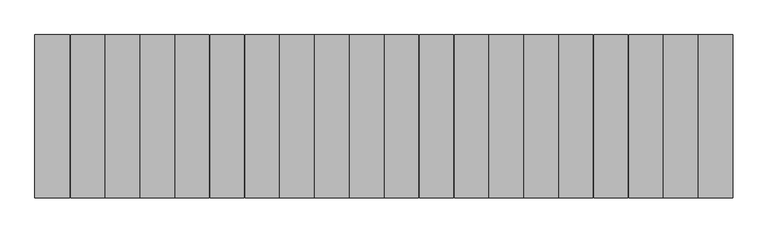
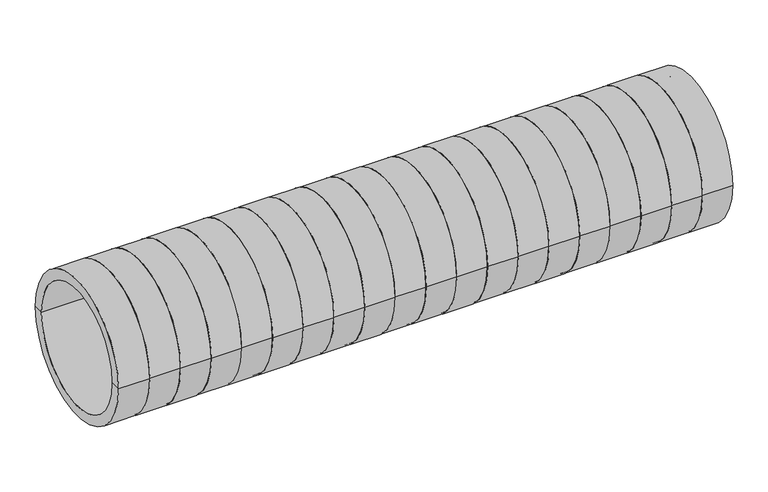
"""IFC4 building model written with IfcOpenShell, lengths in millimetres: duct fitting geometry, HEATPEX - ARIA ADURO - Rura 1m : HEATPEX - ARIA ADURO - Rura 1m."""

import ifcopenshell
import ifcopenshell.guid

model = None  # the IFC model being written
_history = None  # IfcOwnerHistory: only IFC2X3 demands one
_inside = {}  # id of a spatial element -> (the spatial element, [elements in it])
_under = {}  # id of a project, library or spatial element -> (it, [spatial elements below it])
_declared = {}  # id of a project -> (the project, [libraries it declares])
_typed = {}  # id of a type object -> (the type object, [elements of that type])
_made_of = {}  # id of a material, layer set ... -> (it, [elements and type objects made of it])


def new_model(schema):
    """Start an empty IFC model of exactly this schema.

    Asked for "IFC4X3", IfcOpenShell would pick the latest addendum, in which some entities
    have other attributes; the version numbers below select the first issue.
    IFC2X3 requires an IfcOwnerHistory on every rooted entity: one is made here for all.
    """
    global model, _history
    if schema == "IFC4X3":
        model = ifcopenshell.file(schema_version=(4, 3, 0, 0))
    else:
        model = ifcopenshell.file(schema=schema)
    _inside.clear()
    _under.clear()
    _declared.clear()
    _typed.clear()
    _made_of.clear()
    _history = None
    if model.schema == "IFC2X3":
        org = make("IfcOrganization", Name="unknown")
        user = make(
            "IfcPersonAndOrganization",
            ThePerson=make("IfcPerson", FamilyName="unknown"),
            TheOrganization=org,
        )
        app = make(
            "IfcApplication",
            ApplicationDeveloper=org,
            Version="unknown",
            ApplicationFullName="unknown",
            ApplicationIdentifier="unknown",
        )
        _history = make(
            "IfcOwnerHistory",
            OwningUser=user,
            OwningApplication=app,
            ChangeAction="ADDED",
            CreationDate=0,
        )
    return model


def make(cls, **values):
    """One entity of the class cls with the attributes given. An attribute that is None is left unset."""
    return model.create_entity(
        cls, **{name: value for name, value in values.items() if value is not None}
    )


def rooted(cls, **values):
    """An entity with a GlobalId (a new one), such as an element, a storey or a relation."""
    return make(cls, GlobalId=ifcopenshell.guid.new(), OwnerHistory=_history, **values)


def si_unit(unit_type, name, prefix=None):
    """IfcSIUnit, for example si_unit("LENGTHUNIT", "METRE", prefix="MILLI")."""
    return make("IfcSIUnit", UnitType=unit_type, Prefix=prefix, Name=name)


def assignment(units):
    """IfcUnitAssignment: the units of a project."""
    return None if units is None else make("IfcUnitAssignment", Units=units)


def point(xyz):
    """IfcCartesianPoint."""
    return None if xyz is None else make("IfcCartesianPoint", Coordinates=xyz)


def direction(xyz):
    """IfcDirection."""
    return None if xyz is None else make("IfcDirection", DirectionRatios=xyz)


def frame(location, z_axis=None, x_axis=None):
    """IfcAxis2Placement3D, a coordinate frame: its origin and axes. An axis left out is left unset."""
    return make(
        "IfcAxis2Placement3D",
        Location=point(location),
        Axis=direction(z_axis),
        RefDirection=direction(x_axis),
    )


def origin():
    """The frame at (0, 0, 0) with its axes left unset."""
    return frame((0.0, 0.0, 0.0))


def place(relative_to, where):
    """IfcLocalPlacement: puts the frame where relative to a parent placement (None: the world)."""
    return make(
        "IfcLocalPlacement", PlacementRelTo=relative_to, RelativePlacement=where
    )


def context(
    kind, dimensions, precision=None, world=None, true_north=None, identifier=None
):
    """IfcGeometricRepresentationContext, for example the 3D "Model" context."""
    return make(
        "IfcGeometricRepresentationContext",
        ContextIdentifier=identifier,
        ContextType=kind,
        CoordinateSpaceDimension=dimensions,
        Precision=precision,
        WorldCoordinateSystem=world,
        TrueNorth=true_north,
    )


def project(units=None, contexts=None):
    """IfcProject with its units and contexts."""
    return rooted(
        "IfcProject",
        Name="project",
        RepresentationContexts=contexts,
        UnitsInContext=assignment(units),
    )


def spatial(cls, under=None, at=None, **own):
    """A site, building, storey or space (cls), placed at a placement, below another one or the project."""
    s = rooted(cls, ObjectPlacement=at, **own)
    if under is not None:
        _under.setdefault(under.id(), (under, []))[1].append(s)
    return s


def polyline(points):
    """IfcPolyline through the points."""
    return make("IfcPolyline", Points=[point(p) for p in points])


def circle_curve(where, radius):
    """IfcCircle in the frame where."""
    return make("IfcCircle", Position=where, Radius=radius)


def shape(context_of_items, identifier, shape_type, items):
    """IfcShapeRepresentation: the items that make up one representation, for example the "Body"."""
    return make(
        "IfcShapeRepresentation",
        ContextOfItems=context_of_items,
        RepresentationIdentifier=identifier,
        RepresentationType=shape_type,
        Items=items,
    )


def source(mapping_origin, context_of_items, identifier, shape_type, items):
    """IfcRepresentationMap: a shape defined once, which mapped items show again and again."""
    return make(
        "IfcRepresentationMap",
        MappingOrigin=mapping_origin,
        MappedRepresentation=shape(context_of_items, identifier, shape_type, items),
    )


def transform(
    local_origin,
    x_axis=None,
    y_axis=None,
    z_axis=None,
    scale=None,
    scale2=None,
    scale3=None,
    uniform=True,
):
    """IfcCartesianTransformationOperator3D, or its non-uniform kind. x_axis, y_axis, z_axis: its Axis1, 2, 3."""
    if uniform:
        return make(
            "IfcCartesianTransformationOperator3D",
            Axis1=direction(x_axis),
            Axis2=direction(y_axis),
            LocalOrigin=point(local_origin),
            Scale=scale,
            Axis3=direction(z_axis),
        )
    return make(
        "IfcCartesianTransformationOperator3DnonUniform",
        Axis1=direction(x_axis),
        Axis2=direction(y_axis),
        LocalOrigin=point(local_origin),
        Scale=scale,
        Axis3=direction(z_axis),
        Scale2=scale2,
        Scale3=scale3,
    )


def mapped(mapping_source, mapping_target):
    """IfcMappedItem: shows the shape of a source again, moved by a transform."""
    return make(
        "IfcMappedItem", MappingSource=mapping_source, MappingTarget=mapping_target
    )


def made_of(thing, what):
    """Note that an element or type object is made of a material, layer set ...; save() writes the relation."""
    if what is not None:
        _made_of.setdefault(what.id(), (what, []))[1].append(thing)
    return thing


def element(
    cls,
    number,
    at=None,
    inside=None,
    cuts=None,
    type_object=None,
    material=None,
    context=None,
    identifier="Body",
    shape_type=None,
    held_by="IfcProductDefinitionShape",
    body=None,
    shapes=None,
    **own,
):
    """One element of the class cls, such as IfcWall. Its Tag is "e" and its number.

    at: its placement. inside: the storey or other place that contains it. cuts: it is an
    opening in that element (IfcRelVoidsElement). A single representation is given by context,
    identifier, shape_type and body (its items); several are given by shapes. held_by: the class
    of the entity that holds the representations. save() writes the other relations.
    """
    e = rooted(cls, Tag="e%d" % number, ObjectPlacement=at, **own)
    if body is not None:
        shapes = [shape(context, identifier, shape_type, body)]
    if shapes is not None:
        e.Representation = make(held_by, Representations=shapes)
    if inside is not None:
        _inside.setdefault(inside.id(), (inside, []))[1].append(e)
    if cuts is not None:
        rooted(
            "IfcRelVoidsElement", RelatingBuildingElement=cuts, RelatedOpeningElement=e
        )
    if type_object is not None:
        _typed.setdefault(type_object.id(), (type_object, []))[1].append(e)
    return made_of(e, material)


def aggregate(whole, parts):
    """IfcRelAggregates: a whole, such as a stair, and the parts it consists of."""
    return rooted("IfcRelAggregates", RelatingObject=whole, RelatedObjects=parts)


def save(model, path):
    """Write the relations noted so far, then the file.

    IfcRelAggregates (storeys below a building ...), IfcRelContainedInSpatialStructure (elements
    in a storey), IfcRelDefinesByType, IfcRelAssociatesMaterial and IfcRelDeclares: one each for
    every whole, place, type object, material and project.
    """
    for whole, parts in _under.values():
        aggregate(whole, parts)
    for where, things in _inside.values():
        rooted(
            "IfcRelContainedInSpatialStructure",
            RelatedElements=things,
            RelatingStructure=where,
        )
    for kind, things in _typed.values():
        rooted("IfcRelDefinesByType", RelatedObjects=things, RelatingType=kind)
    for what, things in _made_of.values():
        rooted("IfcRelAssociatesMaterial", RelatedObjects=things, RelatingMaterial=what)
    for by, libraries in _declared.values():
        rooted("IfcRelDeclares", RelatingContext=by, RelatedDefinitions=libraries)
    model.write(path)


def plane_surface(at):
    """IfcPlane: the flat surface through the origin of the frame at, square to its z axis."""
    return make("IfcPlane", Position=at)


def cylinder_surface(at, radius):
    """IfcCylindricalSurface: all points at the distance radius from the z axis of the frame at."""
    return make("IfcCylindricalSurface", Position=at, Radius=radius)


def revolved_surface(curve, axis_point, axis_direction):
    """IfcSurfaceOfRevolution: the curve turned about the line through axis_point along axis_direction."""
    return make(
        "IfcSurfaceOfRevolution",
        SweptCurve=make("IfcArbitraryOpenProfileDef", ProfileType="CURVE", Curve=curve),
        AxisPosition=make("IfcAxis1Placement", Location=point(axis_point), Axis=direction(axis_direction)),
    )


def advanced_brep(points, edges, surfaces, faces):
    """IfcAdvancedBrep: a solid bounded by faces that lie on surfaces and meet in shared edges.

    An edge is (start, end): straight between two places in points (the first is 0);
    or (start, end, curve); or (start, end, curve, False) where it runs against its curve.
    A face is (place in surfaces, loops), or (place, loops, False) where it looks against
    its surface's normal. A loop lists edges by number (the first is 1), with a minus sign
    where the edge is run from its end to its start. The first loop is the outer one.
    """
    corners = [point(p) for p in points]
    vertices = [make("IfcVertexPoint", VertexGeometry=c) for c in corners]
    made = []
    for start, end, *more in edges:
        made.append(
            make(
                "IfcEdgeCurve",
                EdgeStart=vertices[start],
                EdgeEnd=vertices[end],
                EdgeGeometry=more[0] if more else make("IfcPolyline", Points=[corners[start], corners[end]]),
                SameSense=more[1] if len(more) > 1 else True,
            )
        )
    hull = []
    for where, loops, *sense in faces:
        bounds = []
        for j, loop in enumerate(loops):
            ring = [make("IfcOrientedEdge", EdgeElement=made[abs(k) - 1], Orientation=k > 0) for k in loop]
            bounds.append(
                make(
                    "IfcFaceOuterBound" if j == 0 else "IfcFaceBound",
                    Bound=make("IfcEdgeLoop", EdgeList=ring),
                    Orientation=True,
                )
            )
        hull.append(make("IfcAdvancedFace", Bounds=bounds, FaceSurface=surfaces[where], SameSense=sense[0] if sense else True))
    return make("IfcAdvancedBrep", Outer=make("IfcClosedShell", CfsFaces=hull))


def duct_fitting_b6d4955a(model_context):
    return source(origin(), model_context, "Body", "AdvancedBrep", [
        advanced_brep(
        [(1000.0, -117.0, 0.0), (1000.0, 117.0, 0.0), (1000.0, 100.0, 0.0), (1000.0, -100.0, 0.0), (0.0, -117.0, 0.0), (0.0, 117.0, 0.0), (50.0, 117.0, 0.0), (50.0, -117.0, 0.0), (0.0, -100.0, 0.0), (0.0, 100.0, 0.0), (951.0, -117.0, 0.0), (951.0, 117.0, 0.0), (951.0, -116.0, 0.0), (951.0, 116.0, 0.0), (950.0, -116.0, 0.0), (950.0, 116.0, 0.0), (950.0, -117.0, 0.0), (950.0, 117.0, 0.0), (901.0, -117.0, 0.0), (901.0, 117.0, 0.0), (901.0, -116.0, 0.0), (901.0, 116.0, 0.0), (900.0, -116.0, 0.0), (900.0, 116.0, 0.0), (900.0, -117.0, 0.0), (900.0, 117.0, 0.0), (851.0, -117.0, 0.0), (851.0, 117.0, 0.0), (851.0, -116.0, 0.0), (851.0, 116.0, 0.0), (850.0, -116.0, 0.0), (850.0, 116.0, 0.0), (850.0, -117.0, 0.0), (850.0, 117.0, 0.0), (801.0, -117.0, 0.0), (801.0, 117.0, 0.0), (801.0, -116.0, 0.0), (801.0, 116.0, 0.0), (800.0, -116.0, 0.0), (800.0, 116.0, 0.0), (800.0, -117.0, 0.0), (800.0, 117.0, 0.0), (751.0, -117.0, 0.0), (751.0, 117.0, 0.0), (751.0, -116.0, 0.0), (751.0, 116.0, 0.0), (750.0, -116.0, 0.0), (750.0, 116.0, 0.0), (750.0, -117.0, 0.0), (750.0, 117.0, 0.0), (701.0, -117.0, 0.0), (701.0, 117.0, 0.0), (701.0, -116.0, 0.0), (701.0, 116.0, 0.0), (700.0, -116.0, 0.0), (700.0, 116.0, 0.0), (700.0, -117.0, 0.0), (700.0, 117.0, 0.0), (651.0, -117.0, 0.0), (651.0, 117.0, 0.0), (651.0, -116.0, 0.0), (651.0, 116.0, 0.0), (650.0, -116.0, 0.0), (650.0, 116.0, 0.0), (650.0, -117.0, 0.0), (650.0, 117.0, 0.0), (601.0, -117.0, 0.0), (601.0, 117.0, 0.0), (601.0, -116.0, 0.0), (601.0, 116.0, 0.0), (600.0, -116.0, 0.0), (600.0, 116.0, 0.0), (600.0, -117.0, 0.0), (600.0, 117.0, 0.0), (551.0, -117.0, 0.0), (551.0, 117.0, 0.0), (551.0, -116.0, 0.0), (551.0, 116.0, 0.0), (550.0, -116.0, 0.0), (550.0, 116.0, 0.0), (550.0, -117.0, 0.0), (550.0, 117.0, 0.0), (501.0, -117.0, 0.0), (501.0, 117.0, 0.0), (501.0, -116.0, 0.0), (501.0, 116.0, 0.0), (500.0, -116.0, 0.0), (500.0, 116.0, 0.0), (500.0, -117.0, 0.0), (500.0, 117.0, 0.0), (451.0, -117.0, 0.0), (451.0, 117.0, 0.0), (451.0, -116.0, 0.0), (451.0, 116.0, 0.0), (450.0, -116.0, 0.0), (450.0, 116.0, 0.0), (450.0, -117.0, 0.0), (450.0, 117.0, 0.0), (401.0, -117.0, 0.0), (401.0, 117.0, 0.0), (401.0, -116.0, 0.0), (401.0, 116.0, 0.0), (400.0, -116.0, 0.0), (400.0, 116.0, 0.0), (400.0, -117.0, 0.0), (400.0, 117.0, 0.0), (351.0, -117.0, 0.0), (351.0, 117.0, 0.0), (351.0, -116.0, 0.0), (351.0, 116.0, 0.0), (350.0, -116.0, 0.0), (350.0, 116.0, 0.0), (350.0, -117.0, 0.0), (350.0, 117.0, 0.0), (301.0, -117.0, 0.0), (301.0, 117.0, 0.0), (301.0, -116.0, 0.0), (301.0, 116.0, 0.0), (300.0, -116.0, 0.0), (300.0, 116.0, 0.0), (300.0, -117.0, 0.0), (300.0, 117.0, 0.0), (251.0, -117.0, 0.0), (251.0, 117.0, 0.0), (251.0, -116.0, 0.0), (251.0, 116.0, 0.0), (250.0, -116.0, 0.0), (250.0, 116.0, 0.0), (250.0, -117.0, 0.0), (250.0, 117.0, 0.0), (201.0, -117.0, 0.0), (201.0, 117.0, 0.0), (201.0, -116.0, 0.0), (201.0, 116.0, 0.0), (200.0, -116.0, 0.0), (200.0, 116.0, 0.0), (200.0, -117.0, 0.0), (200.0, 117.0, 0.0), (151.0, -117.0, 0.0), (151.0, 117.0, 0.0), (151.0, -116.0, 0.0), (151.0, 116.0, 0.0), (150.0, -116.0, 0.0), (150.0, 116.0, 0.0), (150.0, -117.0, 0.0), (150.0, 117.0, 0.0), (101.0, -117.0, 0.0), (101.0, 117.0, 0.0), (101.0, -116.0, 0.0), (101.0, 116.0, 0.0), (100.0, -116.0, 0.0), (100.0, 116.0, 0.0), (100.0, -117.0, 0.0), (100.0, 117.0, 0.0), (51.0, -117.0, 0.0), (51.0, 117.0, 0.0), (51.0, -116.0, 0.0), (51.0, 116.0, 0.0), (50.0, -116.0, 0.0), (50.0, 116.0, 0.0)],
        [
            (0, 1, circle_curve(frame((1000.0, 0.0, 0.0), z_axis=(1.0, 0.0, 0.0), x_axis=(0.0, 1.0, 0.0)), 117.0)),
            (1, 2),
            (2, 3, circle_curve(frame((1000.0, 0.0, 0.0), z_axis=(-1.0, 0.0, 0.0), x_axis=(0.0, 1.0, 0.0)), 100.0)),
            (3, 0),
            (1, 0, circle_curve(frame((1000.0, 0.0, 0.0), z_axis=(1.0, 0.0, 0.0), x_axis=(0.0, 1.0, 0.0)), 117.0)),
            (3, 2, circle_curve(frame((1000.0, 0.0, 0.0), z_axis=(-1.0, 0.0, 0.0), x_axis=(0.0, 1.0, 0.0)), 100.0)),
            (4, 5, circle_curve(frame((0.0, 0.0, 0.0), z_axis=(1.0, 0.0, 0.0), x_axis=(0.0, 1.0, 0.0)), 117.0)),
            (5, 6),
            (6, 7, circle_curve(frame((50.0, 0.0, 0.0), z_axis=(-1.0, 0.0, 0.0), x_axis=(0.0, 1.0, 0.0)), 117.0)),
            (7, 4),
            (5, 4, circle_curve(frame((0.0, 0.0, 0.0), z_axis=(1.0, 0.0, 0.0), x_axis=(0.0, 1.0, 0.0)), 117.0)),
            (7, 6, circle_curve(frame((50.0, 0.0, 0.0), z_axis=(-1.0, 0.0, 0.0), x_axis=(0.0, 1.0, 0.0)), 117.0)),
            (8, 9, circle_curve(frame((0.0, 0.0, 0.0), z_axis=(1.0, 0.0, 0.0), x_axis=(0.0, 1.0, 0.0)), 100.0)),
            (9, 5),
            (4, 8),
            (9, 8, circle_curve(frame((0.0, 0.0, 0.0), z_axis=(1.0, 0.0, 0.0), x_axis=(0.0, 1.0, 0.0)), 100.0)),
            (2, 9),
            (8, 3),
            (10, 11, circle_curve(frame((951.0, 0.0, 0.0), z_axis=(1.0, 0.0, 0.0), x_axis=(0.0, 1.0, 0.0)), 117.0)),
            (11, 1),
            (0, 10),
            (11, 10, circle_curve(frame((951.0, 0.0, 0.0), z_axis=(1.0, 0.0, 0.0), x_axis=(0.0, 1.0, 0.0)), 117.0)),
            (12, 13, circle_curve(frame((951.0, 0.0, 0.0), z_axis=(1.0, 0.0, 0.0), x_axis=(0.0, 1.0, 0.0)), 116.0)),
            (13, 11),
            (10, 12),
            (13, 12, circle_curve(frame((951.0, 0.0, 0.0), z_axis=(1.0, 0.0, 0.0), x_axis=(0.0, 1.0, 0.0)), 116.0)),
            (14, 15, circle_curve(frame((950.0, 0.0, 0.0), z_axis=(1.0, 0.0, 0.0), x_axis=(0.0, 1.0, 0.0)), 116.0)),
            (15, 13),
            (12, 14),
            (15, 14, circle_curve(frame((950.0, 0.0, 0.0), z_axis=(1.0, 0.0, 0.0), x_axis=(0.0, 1.0, 0.0)), 116.0)),
            (16, 17, circle_curve(frame((950.0, 0.0, 0.0), z_axis=(1.0, 0.0, 0.0), x_axis=(0.0, 1.0, 0.0)), 117.0)),
            (17, 15),
            (14, 16),
            (17, 16, circle_curve(frame((950.0, 0.0, 0.0), z_axis=(1.0, 0.0, 0.0), x_axis=(0.0, 1.0, 0.0)), 117.0)),
            (18, 19, circle_curve(frame((901.0, 0.0, 0.0), z_axis=(1.0, 0.0, 0.0), x_axis=(0.0, 1.0, 0.0)), 117.0)),
            (19, 17),
            (16, 18),
            (19, 18, circle_curve(frame((901.0, 0.0, 0.0), z_axis=(1.0, 0.0, 0.0), x_axis=(0.0, 1.0, 0.0)), 117.0)),
            (20, 21, circle_curve(frame((901.0, 0.0, 0.0), z_axis=(1.0, 0.0, 0.0), x_axis=(0.0, 1.0, 0.0)), 116.0)),
            (21, 19),
            (18, 20),
            (21, 20, circle_curve(frame((901.0, 0.0, 0.0), z_axis=(1.0, 0.0, 0.0), x_axis=(0.0, 1.0, 0.0)), 116.0)),
            (22, 23, circle_curve(frame((900.0, 0.0, 0.0), z_axis=(1.0, 0.0, 0.0), x_axis=(0.0, 1.0, 0.0)), 116.0)),
            (23, 21),
            (20, 22),
            (23, 22, circle_curve(frame((900.0, 0.0, 0.0), z_axis=(1.0, 0.0, 0.0), x_axis=(0.0, 1.0, 0.0)), 116.0)),
            (24, 25, circle_curve(frame((900.0, 0.0, 0.0), z_axis=(1.0, 0.0, 0.0), x_axis=(0.0, 1.0, 0.0)), 117.0)),
            (25, 23),
            (22, 24),
            (25, 24, circle_curve(frame((900.0, 0.0, 0.0), z_axis=(1.0, 0.0, 0.0), x_axis=(0.0, 1.0, 0.0)), 117.0)),
            (26, 27, circle_curve(frame((851.0, 0.0, 0.0), z_axis=(1.0, 0.0, 0.0), x_axis=(0.0, 1.0, 0.0)), 117.0)),
            (27, 25),
            (24, 26),
            (27, 26, circle_curve(frame((851.0, 0.0, 0.0), z_axis=(1.0, 0.0, 0.0), x_axis=(0.0, 1.0, 0.0)), 117.0)),
            (28, 29, circle_curve(frame((851.0, 0.0, 0.0), z_axis=(1.0, 0.0, 0.0), x_axis=(0.0, 1.0, 0.0)), 116.0)),
            (29, 27),
            (26, 28),
            (29, 28, circle_curve(frame((851.0, 0.0, 0.0), z_axis=(1.0, 0.0, 0.0), x_axis=(0.0, 1.0, 0.0)), 116.0)),
            (30, 31, circle_curve(frame((850.0, 0.0, 0.0), z_axis=(1.0, 0.0, 0.0), x_axis=(0.0, 1.0, 0.0)), 116.0)),
            (31, 29),
            (28, 30),
            (31, 30, circle_curve(frame((850.0, 0.0, 0.0), z_axis=(1.0, 0.0, 0.0), x_axis=(0.0, 1.0, 0.0)), 116.0)),
            (32, 33, circle_curve(frame((850.0, 0.0, 0.0), z_axis=(1.0, 0.0, 0.0), x_axis=(0.0, 1.0, 0.0)), 117.0)),
            (33, 31),
            (30, 32),
            (33, 32, circle_curve(frame((850.0, 0.0, 0.0), z_axis=(1.0, 0.0, 0.0), x_axis=(0.0, 1.0, 0.0)), 117.0)),
            (34, 35, circle_curve(frame((801.0, 0.0, 0.0), z_axis=(1.0, 0.0, 0.0), x_axis=(0.0, 1.0, 0.0)), 117.0)),
            (35, 33),
            (32, 34),
            (35, 34, circle_curve(frame((801.0, 0.0, 0.0), z_axis=(1.0, 0.0, 0.0), x_axis=(0.0, 1.0, 0.0)), 117.0)),
            (36, 37, circle_curve(frame((801.0, 0.0, 0.0), z_axis=(1.0, 0.0, 0.0), x_axis=(0.0, 1.0, 0.0)), 116.0)),
            (37, 35),
            (34, 36),
            (37, 36, circle_curve(frame((801.0, 0.0, 0.0), z_axis=(1.0, 0.0, 0.0), x_axis=(0.0, 1.0, 0.0)), 116.0)),
            (38, 39, circle_curve(frame((800.0, 0.0, 0.0), z_axis=(1.0, 0.0, 0.0), x_axis=(0.0, 1.0, 0.0)), 116.0)),
            (39, 37),
            (36, 38),
            (39, 38, circle_curve(frame((800.0, 0.0, 0.0), z_axis=(1.0, 0.0, 0.0), x_axis=(0.0, 1.0, 0.0)), 116.0)),
            (40, 41, circle_curve(frame((800.0, 0.0, 0.0), z_axis=(1.0, 0.0, 0.0), x_axis=(0.0, 1.0, 0.0)), 117.0)),
            (41, 39),
            (38, 40),
            (41, 40, circle_curve(frame((800.0, 0.0, 0.0), z_axis=(1.0, 0.0, 0.0), x_axis=(0.0, 1.0, 0.0)), 117.0)),
            (42, 43, circle_curve(frame((751.0, 0.0, 0.0), z_axis=(1.0, 0.0, 0.0), x_axis=(0.0, 1.0, 0.0)), 117.0)),
            (43, 41),
            (40, 42),
            (43, 42, circle_curve(frame((751.0, 0.0, 0.0), z_axis=(1.0, 0.0, 0.0), x_axis=(0.0, 1.0, 0.0)), 117.0)),
            (44, 45, circle_curve(frame((751.0, 0.0, 0.0), z_axis=(1.0, 0.0, 0.0), x_axis=(0.0, 1.0, 0.0)), 116.0)),
            (45, 43),
            (42, 44),
            (45, 44, circle_curve(frame((751.0, 0.0, 0.0), z_axis=(1.0, 0.0, 0.0), x_axis=(0.0, 1.0, 0.0)), 116.0)),
            (46, 47, circle_curve(frame((750.0, 0.0, 0.0), z_axis=(1.0, 0.0, 0.0), x_axis=(0.0, 1.0, 0.0)), 116.0)),
            (47, 45),
            (44, 46),
            (47, 46, circle_curve(frame((750.0, 0.0, 0.0), z_axis=(1.0, 0.0, 0.0), x_axis=(0.0, 1.0, 0.0)), 116.0)),
            (48, 49, circle_curve(frame((750.0, 0.0, 0.0), z_axis=(1.0, 0.0, 0.0), x_axis=(0.0, 1.0, 0.0)), 117.0)),
            (49, 47),
            (46, 48),
            (49, 48, circle_curve(frame((750.0, 0.0, 0.0), z_axis=(1.0, 0.0, 0.0), x_axis=(0.0, 1.0, 0.0)), 117.0)),
            (50, 51, circle_curve(frame((701.0, 0.0, 0.0), z_axis=(1.0, 0.0, 0.0), x_axis=(0.0, 1.0, 0.0)), 117.0)),
            (51, 49),
            (48, 50),
            (51, 50, circle_curve(frame((701.0, 0.0, 0.0), z_axis=(1.0, 0.0, 0.0), x_axis=(0.0, 1.0, 0.0)), 117.0)),
            (52, 53, circle_curve(frame((701.0, 0.0, 0.0), z_axis=(1.0, 0.0, 0.0), x_axis=(0.0, 1.0, 0.0)), 116.0)),
            (53, 51),
            (50, 52),
            (53, 52, circle_curve(frame((701.0, 0.0, 0.0), z_axis=(1.0, 0.0, 0.0), x_axis=(0.0, 1.0, 0.0)), 116.0)),
            (54, 55, circle_curve(frame((700.0, 0.0, 0.0), z_axis=(1.0, 0.0, 0.0), x_axis=(0.0, 1.0, 0.0)), 116.0)),
            (55, 53),
            (52, 54),
            (55, 54, circle_curve(frame((700.0, 0.0, 0.0), z_axis=(1.0, 0.0, 0.0), x_axis=(0.0, 1.0, 0.0)), 116.0)),
            (56, 57, circle_curve(frame((700.0, 0.0, 0.0), z_axis=(1.0, 0.0, 0.0), x_axis=(0.0, 1.0, 0.0)), 117.0)),
            (57, 55),
            (54, 56),
            (57, 56, circle_curve(frame((700.0, 0.0, 0.0), z_axis=(1.0, 0.0, 0.0), x_axis=(0.0, 1.0, 0.0)), 117.0)),
            (58, 59, circle_curve(frame((651.0, 0.0, 0.0), z_axis=(1.0, 0.0, 0.0), x_axis=(0.0, 1.0, 0.0)), 117.0)),
            (59, 57),
            (56, 58),
            (59, 58, circle_curve(frame((651.0, 0.0, 0.0), z_axis=(1.0, 0.0, 0.0), x_axis=(0.0, 1.0, 0.0)), 117.0)),
            (60, 61, circle_curve(frame((651.0, 0.0, 0.0), z_axis=(1.0, 0.0, 0.0), x_axis=(0.0, 1.0, 0.0)), 116.0)),
            (61, 59),
            (58, 60),
            (61, 60, circle_curve(frame((651.0, 0.0, 0.0), z_axis=(1.0, 0.0, 0.0), x_axis=(0.0, 1.0, 0.0)), 116.0)),
            (62, 63, circle_curve(frame((650.0, 0.0, 0.0), z_axis=(1.0, 0.0, 0.0), x_axis=(0.0, 1.0, 0.0)), 116.0)),
            (63, 61),
            (60, 62),
            (63, 62, circle_curve(frame((650.0, 0.0, 0.0), z_axis=(1.0, 0.0, 0.0), x_axis=(0.0, 1.0, 0.0)), 116.0)),
            (64, 65, circle_curve(frame((650.0, 0.0, 0.0), z_axis=(1.0, 0.0, 0.0), x_axis=(0.0, 1.0, 0.0)), 117.0)),
            (65, 63),
            (62, 64),
            (65, 64, circle_curve(frame((650.0, 0.0, 0.0), z_axis=(1.0, 0.0, 0.0), x_axis=(0.0, 1.0, 0.0)), 117.0)),
            (66, 67, circle_curve(frame((601.0, 0.0, 0.0), z_axis=(1.0, 0.0, 0.0), x_axis=(0.0, 1.0, 0.0)), 117.0)),
            (67, 65),
            (64, 66),
            (67, 66, circle_curve(frame((601.0, 0.0, 0.0), z_axis=(1.0, 0.0, 0.0), x_axis=(0.0, 1.0, 0.0)), 117.0)),
            (68, 69, circle_curve(frame((601.0, 0.0, 0.0), z_axis=(1.0, 0.0, 0.0), x_axis=(0.0, 1.0, 0.0)), 116.0)),
            (69, 67),
            (66, 68),
            (69, 68, circle_curve(frame((601.0, 0.0, 0.0), z_axis=(1.0, 0.0, 0.0), x_axis=(0.0, 1.0, 0.0)), 116.0)),
            (70, 71, circle_curve(frame((600.0, 0.0, 0.0), z_axis=(1.0, 0.0, 0.0), x_axis=(0.0, 1.0, 0.0)), 116.0)),
            (71, 69),
            (68, 70),
            (71, 70, circle_curve(frame((600.0, 0.0, 0.0), z_axis=(1.0, 0.0, 0.0), x_axis=(0.0, 1.0, 0.0)), 116.0)),
            (72, 73, circle_curve(frame((600.0, 0.0, 0.0), z_axis=(1.0, 0.0, 0.0), x_axis=(0.0, 1.0, 0.0)), 117.0)),
            (73, 71),
            (70, 72),
            (73, 72, circle_curve(frame((600.0, 0.0, 0.0), z_axis=(1.0, 0.0, 0.0), x_axis=(0.0, 1.0, 0.0)), 117.0)),
            (74, 75, circle_curve(frame((551.0, 0.0, 0.0), z_axis=(1.0, 0.0, 0.0), x_axis=(0.0, 1.0, 0.0)), 117.0)),
            (75, 73),
            (72, 74),
            (75, 74, circle_curve(frame((551.0, 0.0, 0.0), z_axis=(1.0, 0.0, 0.0), x_axis=(0.0, 1.0, 0.0)), 117.0)),
            (76, 77, circle_curve(frame((551.0, 0.0, 0.0), z_axis=(1.0, 0.0, 0.0), x_axis=(0.0, 1.0, 0.0)), 116.0)),
            (77, 75),
            (74, 76),
            (77, 76, circle_curve(frame((551.0, 0.0, 0.0), z_axis=(1.0, 0.0, 0.0), x_axis=(0.0, 1.0, 0.0)), 116.0)),
            (78, 79, circle_curve(frame((550.0, 0.0, 0.0), z_axis=(1.0, 0.0, 0.0), x_axis=(0.0, 1.0, 0.0)), 116.0)),
            (79, 77),
            (76, 78),
            (79, 78, circle_curve(frame((550.0, 0.0, 0.0), z_axis=(1.0, 0.0, 0.0), x_axis=(0.0, 1.0, 0.0)), 116.0)),
            (80, 81, circle_curve(frame((550.0, 0.0, 0.0), z_axis=(1.0, 0.0, 0.0), x_axis=(0.0, 1.0, 0.0)), 117.0)),
            (81, 79),
            (78, 80),
            (81, 80, circle_curve(frame((550.0, 0.0, 0.0), z_axis=(1.0, 0.0, 0.0), x_axis=(0.0, 1.0, 0.0)), 117.0)),
            (82, 83, circle_curve(frame((501.0, 0.0, 0.0), z_axis=(1.0, 0.0, 0.0), x_axis=(0.0, 1.0, 0.0)), 117.0)),
            (83, 81),
            (80, 82),
            (83, 82, circle_curve(frame((501.0, 0.0, 0.0), z_axis=(1.0, 0.0, 0.0), x_axis=(0.0, 1.0, 0.0)), 117.0)),
            (84, 85, circle_curve(frame((501.0, 0.0, 0.0), z_axis=(1.0, 0.0, 0.0), x_axis=(0.0, 1.0, 0.0)), 116.0)),
            (85, 83),
            (82, 84),
            (85, 84, circle_curve(frame((501.0, 0.0, 0.0), z_axis=(1.0, 0.0, 0.0), x_axis=(0.0, 1.0, 0.0)), 116.0)),
            (86, 87, circle_curve(frame((500.0, 0.0, 0.0), z_axis=(1.0, 0.0, 0.0), x_axis=(0.0, 1.0, 0.0)), 116.0)),
            (87, 85),
            (84, 86),
            (87, 86, circle_curve(frame((500.0, 0.0, 0.0), z_axis=(1.0, 0.0, 0.0), x_axis=(0.0, 1.0, 0.0)), 116.0)),
            (88, 89, circle_curve(frame((500.0, 0.0, 0.0), z_axis=(1.0, 0.0, 0.0), x_axis=(0.0, 1.0, 0.0)), 117.0)),
            (89, 87),
            (86, 88),
            (89, 88, circle_curve(frame((500.0, 0.0, 0.0), z_axis=(1.0, 0.0, 0.0), x_axis=(0.0, 1.0, 0.0)), 117.0)),
            (90, 91, circle_curve(frame((451.0, 0.0, 0.0), z_axis=(1.0, 0.0, 0.0), x_axis=(0.0, 1.0, 0.0)), 117.0)),
            (91, 89),
            (88, 90),
            (91, 90, circle_curve(frame((451.0, 0.0, 0.0), z_axis=(1.0, 0.0, 0.0), x_axis=(0.0, 1.0, 0.0)), 117.0)),
            (92, 93, circle_curve(frame((451.0, 0.0, 0.0), z_axis=(1.0, 0.0, 0.0), x_axis=(0.0, 1.0, 0.0)), 116.0)),
            (93, 91),
            (90, 92),
            (93, 92, circle_curve(frame((451.0, 0.0, 0.0), z_axis=(1.0, 0.0, 0.0), x_axis=(0.0, 1.0, 0.0)), 116.0)),
            (94, 95, circle_curve(frame((450.0, 0.0, 0.0), z_axis=(1.0, 0.0, 0.0), x_axis=(0.0, 1.0, 0.0)), 116.0)),
            (95, 93),
            (92, 94),
            (95, 94, circle_curve(frame((450.0, 0.0, 0.0), z_axis=(1.0, 0.0, 0.0), x_axis=(0.0, 1.0, 0.0)), 116.0)),
            (96, 97, circle_curve(frame((450.0, 0.0, 0.0), z_axis=(1.0, 0.0, 0.0), x_axis=(0.0, 1.0, 0.0)), 117.0)),
            (97, 95),
            (94, 96),
            (97, 96, circle_curve(frame((450.0, 0.0, 0.0), z_axis=(1.0, 0.0, 0.0), x_axis=(0.0, 1.0, 0.0)), 117.0)),
            (98, 99, circle_curve(frame((401.0, 0.0, 0.0), z_axis=(1.0, 0.0, 0.0), x_axis=(0.0, 1.0, 0.0)), 117.0)),
            (99, 97),
            (96, 98),
            (99, 98, circle_curve(frame((401.0, 0.0, 0.0), z_axis=(1.0, 0.0, 0.0), x_axis=(0.0, 1.0, 0.0)), 117.0)),
            (100, 101, circle_curve(frame((401.0, 0.0, 0.0), z_axis=(1.0, 0.0, 0.0), x_axis=(0.0, 1.0, 0.0)), 116.0)),
            (101, 99),
            (98, 100),
            (101, 100, circle_curve(frame((401.0, 0.0, 0.0), z_axis=(1.0, 0.0, 0.0), x_axis=(0.0, 1.0, 0.0)), 116.0)),
            (102, 103, circle_curve(frame((400.0, 0.0, 0.0), z_axis=(1.0, 0.0, 0.0), x_axis=(0.0, 1.0, 0.0)), 116.0)),
            (103, 101),
            (100, 102),
            (103, 102, circle_curve(frame((400.0, 0.0, 0.0), z_axis=(1.0, 0.0, 0.0), x_axis=(0.0, 1.0, 0.0)), 116.0)),
            (104, 105, circle_curve(frame((400.0, 0.0, 0.0), z_axis=(1.0, 0.0, 0.0), x_axis=(0.0, 1.0, 0.0)), 117.0)),
            (105, 103),
            (102, 104),
            (105, 104, circle_curve(frame((400.0, 0.0, 0.0), z_axis=(1.0, 0.0, 0.0), x_axis=(0.0, 1.0, 0.0)), 117.0)),
            (106, 107, circle_curve(frame((351.0, 0.0, 0.0), z_axis=(1.0, 0.0, 0.0), x_axis=(0.0, 1.0, 0.0)), 117.0)),
            (107, 105),
            (104, 106),
            (107, 106, circle_curve(frame((351.0, 0.0, 0.0), z_axis=(1.0, 0.0, 0.0), x_axis=(0.0, 1.0, 0.0)), 117.0)),
            (108, 109, circle_curve(frame((351.0, 0.0, 0.0), z_axis=(1.0, 0.0, 0.0), x_axis=(0.0, 1.0, 0.0)), 116.0)),
            (109, 107),
            (106, 108),
            (109, 108, circle_curve(frame((351.0, 0.0, 0.0), z_axis=(1.0, 0.0, 0.0), x_axis=(0.0, 1.0, 0.0)), 116.0)),
            (110, 111, circle_curve(frame((350.0, 0.0, 0.0), z_axis=(1.0, 0.0, 0.0), x_axis=(0.0, 1.0, 0.0)), 116.0)),
            (111, 109),
            (108, 110),
            (111, 110, circle_curve(frame((350.0, 0.0, 0.0), z_axis=(1.0, 0.0, 0.0), x_axis=(0.0, 1.0, 0.0)), 116.0)),
            (112, 113, circle_curve(frame((350.0, 0.0, 0.0), z_axis=(1.0, 0.0, 0.0), x_axis=(0.0, 1.0, 0.0)), 117.0)),
            (113, 111),
            (110, 112),
            (113, 112, circle_curve(frame((350.0, 0.0, 0.0), z_axis=(1.0, 0.0, 0.0), x_axis=(0.0, 1.0, 0.0)), 117.0)),
            (114, 115, circle_curve(frame((301.0, 0.0, 0.0), z_axis=(1.0, 0.0, 0.0), x_axis=(0.0, 1.0, 0.0)), 117.0)),
            (115, 113),
            (112, 114),
            (115, 114, circle_curve(frame((301.0, 0.0, 0.0), z_axis=(1.0, 0.0, 0.0), x_axis=(0.0, 1.0, 0.0)), 117.0)),
            (116, 117, circle_curve(frame((301.0, 0.0, 0.0), z_axis=(1.0, 0.0, 0.0), x_axis=(0.0, 1.0, 0.0)), 116.0)),
            (117, 115),
            (114, 116),
            (117, 116, circle_curve(frame((301.0, 0.0, 0.0), z_axis=(1.0, 0.0, 0.0), x_axis=(0.0, 1.0, 0.0)), 116.0)),
            (118, 119, circle_curve(frame((300.0, 0.0, 0.0), z_axis=(1.0, 0.0, 0.0), x_axis=(0.0, 1.0, 0.0)), 116.0)),
            (119, 117),
            (116, 118),
            (119, 118, circle_curve(frame((300.0, 0.0, 0.0), z_axis=(1.0, 0.0, 0.0), x_axis=(0.0, 1.0, 0.0)), 116.0)),
            (120, 121, circle_curve(frame((300.0, 0.0, 0.0), z_axis=(1.0, 0.0, 0.0), x_axis=(0.0, 1.0, 0.0)), 117.0)),
            (121, 119),
            (118, 120),
            (121, 120, circle_curve(frame((300.0, 0.0, 0.0), z_axis=(1.0, 0.0, 0.0), x_axis=(0.0, 1.0, 0.0)), 117.0)),
            (122, 123, circle_curve(frame((251.0, 0.0, 0.0), z_axis=(1.0, 0.0, 0.0), x_axis=(0.0, 1.0, 0.0)), 117.0)),
            (123, 121),
            (120, 122),
            (123, 122, circle_curve(frame((251.0, 0.0, 0.0), z_axis=(1.0, 0.0, 0.0), x_axis=(0.0, 1.0, 0.0)), 117.0)),
            (124, 125, circle_curve(frame((251.0, 0.0, 0.0), z_axis=(1.0, 0.0, 0.0), x_axis=(0.0, 1.0, 0.0)), 116.0)),
            (125, 123),
            (122, 124),
            (125, 124, circle_curve(frame((251.0, 0.0, 0.0), z_axis=(1.0, 0.0, 0.0), x_axis=(0.0, 1.0, 0.0)), 116.0)),
            (126, 127, circle_curve(frame((250.0, 0.0, 0.0), z_axis=(1.0, 0.0, 0.0), x_axis=(0.0, 1.0, 0.0)), 116.0)),
            (127, 125),
            (124, 126),
            (127, 126, circle_curve(frame((250.0, 0.0, 0.0), z_axis=(1.0, 0.0, 0.0), x_axis=(0.0, 1.0, 0.0)), 116.0)),
            (128, 129, circle_curve(frame((250.0, 0.0, 0.0), z_axis=(1.0, 0.0, 0.0), x_axis=(0.0, 1.0, 0.0)), 117.0)),
            (129, 127),
            (126, 128),
            (129, 128, circle_curve(frame((250.0, 0.0, 0.0), z_axis=(1.0, 0.0, 0.0), x_axis=(0.0, 1.0, 0.0)), 117.0)),
            (130, 131, circle_curve(frame((201.0, 0.0, 0.0), z_axis=(1.0, 0.0, 0.0), x_axis=(0.0, 1.0, 0.0)), 117.0)),
            (131, 129),
            (128, 130),
            (131, 130, circle_curve(frame((201.0, 0.0, 0.0), z_axis=(1.0, 0.0, 0.0), x_axis=(0.0, 1.0, 0.0)), 117.0)),
            (132, 133, circle_curve(frame((201.0, 0.0, 0.0), z_axis=(1.0, 0.0, 0.0), x_axis=(0.0, 1.0, 0.0)), 116.0)),
            (133, 131),
            (130, 132),
            (133, 132, circle_curve(frame((201.0, 0.0, 0.0), z_axis=(1.0, 0.0, 0.0), x_axis=(0.0, 1.0, 0.0)), 116.0)),
            (134, 135, circle_curve(frame((200.0, 0.0, 0.0), z_axis=(1.0, 0.0, 0.0), x_axis=(0.0, 1.0, 0.0)), 116.0)),
            (135, 133),
            (132, 134),
            (135, 134, circle_curve(frame((200.0, 0.0, 0.0), z_axis=(1.0, 0.0, 0.0), x_axis=(0.0, 1.0, 0.0)), 116.0)),
            (136, 137, circle_curve(frame((200.0, 0.0, 0.0), z_axis=(1.0, 0.0, 0.0), x_axis=(0.0, 1.0, 0.0)), 117.0)),
            (137, 135),
            (134, 136),
            (137, 136, circle_curve(frame((200.0, 0.0, 0.0), z_axis=(1.0, 0.0, 0.0), x_axis=(0.0, 1.0, 0.0)), 117.0)),
            (138, 139, circle_curve(frame((151.0, 0.0, 0.0), z_axis=(1.0, 0.0, 0.0), x_axis=(0.0, 1.0, 0.0)), 117.0)),
            (139, 137),
            (136, 138),
            (139, 138, circle_curve(frame((151.0, 0.0, 0.0), z_axis=(1.0, 0.0, 0.0), x_axis=(0.0, 1.0, 0.0)), 117.0)),
            (140, 141, circle_curve(frame((151.0, 0.0, 0.0), z_axis=(1.0, 0.0, 0.0), x_axis=(0.0, 1.0, 0.0)), 116.0)),
            (141, 139),
            (138, 140),
            (141, 140, circle_curve(frame((151.0, 0.0, 0.0), z_axis=(1.0, 0.0, 0.0), x_axis=(0.0, 1.0, 0.0)), 116.0)),
            (142, 143, circle_curve(frame((150.0, 0.0, 0.0), z_axis=(1.0, 0.0, 0.0), x_axis=(0.0, 1.0, 0.0)), 116.0)),
            (143, 141),
            (140, 142),
            (143, 142, circle_curve(frame((150.0, 0.0, 0.0), z_axis=(1.0, 0.0, 0.0), x_axis=(0.0, 1.0, 0.0)), 116.0)),
            (144, 145, circle_curve(frame((150.0, 0.0, 0.0), z_axis=(1.0, 0.0, 0.0), x_axis=(0.0, 1.0, 0.0)), 117.0)),
            (145, 143),
            (142, 144),
            (145, 144, circle_curve(frame((150.0, 0.0, 0.0), z_axis=(1.0, 0.0, 0.0), x_axis=(0.0, 1.0, 0.0)), 117.0)),
            (146, 147, circle_curve(frame((101.0, 0.0, 0.0), z_axis=(1.0, 0.0, 0.0), x_axis=(0.0, 1.0, 0.0)), 117.0)),
            (147, 145),
            (144, 146),
            (147, 146, circle_curve(frame((101.0, 0.0, 0.0), z_axis=(1.0, 0.0, 0.0), x_axis=(0.0, 1.0, 0.0)), 117.0)),
            (148, 149, circle_curve(frame((101.0, 0.0, 0.0), z_axis=(1.0, 0.0, 0.0), x_axis=(0.0, 1.0, 0.0)), 116.0)),
            (149, 147),
            (146, 148),
            (149, 148, circle_curve(frame((101.0, 0.0, 0.0), z_axis=(1.0, 0.0, 0.0), x_axis=(0.0, 1.0, 0.0)), 116.0)),
            (150, 151, circle_curve(frame((100.0, 0.0, 0.0), z_axis=(1.0, 0.0, 0.0), x_axis=(0.0, 1.0, 0.0)), 116.0)),
            (151, 149),
            (148, 150),
            (151, 150, circle_curve(frame((100.0, 0.0, 0.0), z_axis=(1.0, 0.0, 0.0), x_axis=(0.0, 1.0, 0.0)), 116.0)),
            (152, 153, circle_curve(frame((100.0, 0.0, 0.0), z_axis=(1.0, 0.0, 0.0), x_axis=(0.0, 1.0, 0.0)), 117.0)),
            (153, 151),
            (150, 152),
            (153, 152, circle_curve(frame((100.0, 0.0, 0.0), z_axis=(1.0, 0.0, 0.0), x_axis=(0.0, 1.0, 0.0)), 117.0)),
            (154, 155, circle_curve(frame((51.0, 0.0, 0.0), z_axis=(1.0, 0.0, 0.0), x_axis=(0.0, 1.0, 0.0)), 117.0)),
            (155, 153),
            (152, 154),
            (155, 154, circle_curve(frame((51.0, 0.0, 0.0), z_axis=(1.0, 0.0, 0.0), x_axis=(0.0, 1.0, 0.0)), 117.0)),
            (156, 157, circle_curve(frame((51.0, 0.0, 0.0), z_axis=(1.0, 0.0, 0.0), x_axis=(0.0, 1.0, 0.0)), 116.0)),
            (157, 155),
            (154, 156),
            (157, 156, circle_curve(frame((51.0, 0.0, 0.0), z_axis=(1.0, 0.0, 0.0), x_axis=(0.0, 1.0, 0.0)), 116.0)),
            (158, 159, circle_curve(frame((50.0, 0.0, 0.0), z_axis=(1.0, 0.0, 0.0), x_axis=(0.0, 1.0, 0.0)), 116.0)),
            (159, 157),
            (156, 158),
            (159, 158, circle_curve(frame((50.0, 0.0, 0.0), z_axis=(1.0, 0.0, 0.0), x_axis=(0.0, 1.0, 0.0)), 116.0)),
            (6, 159),
            (158, 7),
        ],
        [
            plane_surface(frame((1000.0, 0.0, 0.0), z_axis=(1.0, 0.0, 0.0), x_axis=(0.0, 1.0, 0.0))),
            cylinder_surface(frame((845.0, 0.0, 0.0), z_axis=(-1.0, 0.0, 0.0), x_axis=(0.0, 1.0, 0.0)), 117.0),
            plane_surface(frame((0.0, 0.0, 0.0), z_axis=(-1.0, 0.0, 0.0), x_axis=(0.0, 1.0, 0.0))),
            revolved_surface(polyline([(0.0, 100.0, 0.0), (1000.0, 100.0, 0.0)]), (845.0, 0.0, 0.0), (-1.0, 0.0, 0.0)),
            plane_surface(frame((951.0, 0.0, 0.0), z_axis=(-1.0, 0.0, 0.0), x_axis=(0.0, 1.0, 0.0))),
            cylinder_surface(frame((845.0, 0.0, 0.0), z_axis=(-1.0, 0.0, 0.0), x_axis=(0.0, 1.0, 0.0)), 116.0),
            plane_surface(frame((950.0, 0.0, 0.0), z_axis=(1.0, 0.0, 0.0), x_axis=(0.0, 1.0, 0.0))),
            plane_surface(frame((901.0, 0.0, 0.0), z_axis=(-1.0, 0.0, 0.0), x_axis=(0.0, 1.0, 0.0))),
            plane_surface(frame((900.0, 0.0, 0.0), z_axis=(1.0, 0.0, 0.0), x_axis=(0.0, 1.0, 0.0))),
            plane_surface(frame((851.0, 0.0, 0.0), z_axis=(-1.0, 0.0, 0.0), x_axis=(0.0, 1.0, 0.0))),
            plane_surface(frame((850.0, 0.0, 0.0), z_axis=(1.0, 0.0, 0.0), x_axis=(0.0, 1.0, 0.0))),
            plane_surface(frame((801.0, 0.0, 0.0), z_axis=(-1.0, 0.0, 0.0), x_axis=(0.0, 1.0, 0.0))),
            plane_surface(frame((800.0, 0.0, 0.0), z_axis=(1.0, 0.0, 0.0), x_axis=(0.0, 1.0, 0.0))),
            plane_surface(frame((751.0, 0.0, 0.0), z_axis=(-1.0, 0.0, 0.0), x_axis=(0.0, 1.0, 0.0))),
            plane_surface(frame((750.0, 0.0, 0.0), z_axis=(1.0, 0.0, 0.0), x_axis=(0.0, 1.0, 0.0))),
            plane_surface(frame((701.0, 0.0, 0.0), z_axis=(-1.0, 0.0, 0.0), x_axis=(0.0, 1.0, 0.0))),
            plane_surface(frame((700.0, 0.0, 0.0), z_axis=(1.0, 0.0, 0.0), x_axis=(0.0, 1.0, 0.0))),
            plane_surface(frame((651.0, 0.0, 0.0), z_axis=(-1.0, 0.0, 0.0), x_axis=(0.0, 1.0, 0.0))),
            plane_surface(frame((650.0, 0.0, 0.0), z_axis=(1.0, 0.0, 0.0), x_axis=(0.0, 1.0, 0.0))),
            plane_surface(frame((601.0, 0.0, 0.0), z_axis=(-1.0, 0.0, 0.0), x_axis=(0.0, 1.0, 0.0))),
            plane_surface(frame((600.0, 0.0, 0.0), z_axis=(1.0, 0.0, 0.0), x_axis=(0.0, 1.0, 0.0))),
            plane_surface(frame((551.0, 0.0, 0.0), z_axis=(-1.0, 0.0, 0.0), x_axis=(0.0, 1.0, 0.0))),
            plane_surface(frame((550.0, 0.0, 0.0), z_axis=(1.0, 0.0, 0.0), x_axis=(0.0, 1.0, 0.0))),
            plane_surface(frame((501.0, 0.0, 0.0), z_axis=(-1.0, 0.0, 0.0), x_axis=(0.0, 1.0, 0.0))),
            plane_surface(frame((500.0, 0.0, 0.0), z_axis=(1.0, 0.0, 0.0), x_axis=(0.0, 1.0, 0.0))),
            plane_surface(frame((451.0, 0.0, 0.0), z_axis=(-1.0, 0.0, 0.0), x_axis=(0.0, 1.0, 0.0))),
            plane_surface(frame((450.0, 0.0, 0.0), z_axis=(1.0, 0.0, 0.0), x_axis=(0.0, 1.0, 0.0))),
            plane_surface(frame((401.0, 0.0, 0.0), z_axis=(-1.0, 0.0, 0.0), x_axis=(0.0, 1.0, 0.0))),
            plane_surface(frame((400.0, 0.0, 0.0), z_axis=(1.0, 0.0, 0.0), x_axis=(0.0, 1.0, 0.0))),
            plane_surface(frame((351.0, 0.0, 0.0), z_axis=(-1.0, 0.0, 0.0), x_axis=(0.0, 1.0, 0.0))),
            plane_surface(frame((350.0, 0.0, 0.0), z_axis=(1.0, 0.0, 0.0), x_axis=(0.0, 1.0, 0.0))),
            plane_surface(frame((301.0, 0.0, 0.0), z_axis=(-1.0, 0.0, 0.0), x_axis=(0.0, 1.0, 0.0))),
            plane_surface(frame((300.0, 0.0, 0.0), z_axis=(1.0, 0.0, 0.0), x_axis=(0.0, 1.0, 0.0))),
            plane_surface(frame((251.0, 0.0, 0.0), z_axis=(-1.0, 0.0, 0.0), x_axis=(0.0, 1.0, 0.0))),
            plane_surface(frame((250.0, 0.0, 0.0), z_axis=(1.0, 0.0, 0.0), x_axis=(0.0, 1.0, 0.0))),
            plane_surface(frame((201.0, 0.0, 0.0), z_axis=(-1.0, 0.0, 0.0), x_axis=(0.0, 1.0, 0.0))),
            plane_surface(frame((200.0, 0.0, 0.0), z_axis=(1.0, 0.0, 0.0), x_axis=(0.0, 1.0, 0.0))),
            plane_surface(frame((151.0, 0.0, 0.0), z_axis=(-1.0, 0.0, 0.0), x_axis=(0.0, 1.0, 0.0))),
            plane_surface(frame((150.0, 0.0, 0.0), z_axis=(1.0, 0.0, 0.0), x_axis=(0.0, 1.0, 0.0))),
            plane_surface(frame((101.0, 0.0, 0.0), z_axis=(-1.0, 0.0, 0.0), x_axis=(0.0, 1.0, 0.0))),
            plane_surface(frame((100.0, 0.0, 0.0), z_axis=(1.0, 0.0, 0.0), x_axis=(0.0, 1.0, 0.0))),
            plane_surface(frame((51.0, 0.0, 0.0), z_axis=(-1.0, 0.0, 0.0), x_axis=(0.0, 1.0, 0.0))),
            plane_surface(frame((50.0, 0.0, 0.0), z_axis=(1.0, 0.0, 0.0), x_axis=(0.0, 1.0, 0.0))),
        ],
        [
            (0, [[1, 2, 3, 4]]),
            (0, [[5, -4, 6, -2]]),
            (1, [[7, 8, 9, 10]]),
            (1, [[11, -10, 12, -8]]),
            (2, [[13, 14, -7, 15]]),
            (2, [[16, -15, -11, -14]]),
            (3, [[-3, 17, -13, 18]]),
            (3, [[-6, -18, -16, -17]]),
            (1, [[19, 20, -1, 21]]),
            (1, [[22, -21, -5, -20]]),
            (4, [[23, 24, -19, 25]]),
            (4, [[26, -25, -22, -24]]),
            (5, [[27, 28, -23, 29]]),
            (5, [[30, -29, -26, -28]]),
            (6, [[31, 32, -27, 33]]),
            (6, [[34, -33, -30, -32]]),
            (1, [[35, 36, -31, 37]]),
            (1, [[38, -37, -34, -36]]),
            (7, [[39, 40, -35, 41]]),
            (7, [[42, -41, -38, -40]]),
            (5, [[43, 44, -39, 45]]),
            (5, [[46, -45, -42, -44]]),
            (8, [[47, 48, -43, 49]]),
            (8, [[50, -49, -46, -48]]),
            (1, [[51, 52, -47, 53]]),
            (1, [[54, -53, -50, -52]]),
            (9, [[55, 56, -51, 57]]),
            (9, [[58, -57, -54, -56]]),
            (5, [[59, 60, -55, 61]]),
            (5, [[62, -61, -58, -60]]),
            (10, [[63, 64, -59, 65]]),
            (10, [[66, -65, -62, -64]]),
            (1, [[67, 68, -63, 69]]),
            (1, [[70, -69, -66, -68]]),
            (11, [[71, 72, -67, 73]]),
            (11, [[74, -73, -70, -72]]),
            (5, [[75, 76, -71, 77]]),
            (5, [[78, -77, -74, -76]]),
            (12, [[79, 80, -75, 81]]),
            (12, [[82, -81, -78, -80]]),
            (1, [[83, 84, -79, 85]]),
            (1, [[86, -85, -82, -84]]),
            (13, [[87, 88, -83, 89]]),
            (13, [[90, -89, -86, -88]]),
            (5, [[91, 92, -87, 93]]),
            (5, [[94, -93, -90, -92]]),
            (14, [[95, 96, -91, 97]]),
            (14, [[98, -97, -94, -96]]),
            (1, [[99, 100, -95, 101]]),
            (1, [[102, -101, -98, -100]]),
            (15, [[103, 104, -99, 105]]),
            (15, [[106, -105, -102, -104]]),
            (5, [[107, 108, -103, 109]]),
            (5, [[110, -109, -106, -108]]),
            (16, [[111, 112, -107, 113]]),
            (16, [[114, -113, -110, -112]]),
            (1, [[115, 116, -111, 117]]),
            (1, [[118, -117, -114, -116]]),
            (17, [[119, 120, -115, 121]]),
            (17, [[122, -121, -118, -120]]),
            (5, [[123, 124, -119, 125]]),
            (5, [[126, -125, -122, -124]]),
            (18, [[127, 128, -123, 129]]),
            (18, [[130, -129, -126, -128]]),
            (1, [[131, 132, -127, 133]]),
            (1, [[134, -133, -130, -132]]),
            (19, [[135, 136, -131, 137]]),
            (19, [[138, -137, -134, -136]]),
            (5, [[139, 140, -135, 141]]),
            (5, [[142, -141, -138, -140]]),
            (20, [[143, 144, -139, 145]]),
            (20, [[146, -145, -142, -144]]),
            (1, [[147, 148, -143, 149]]),
            (1, [[150, -149, -146, -148]]),
            (21, [[151, 152, -147, 153]]),
            (21, [[154, -153, -150, -152]]),
            (5, [[155, 156, -151, 157]]),
            (5, [[158, -157, -154, -156]]),
            (22, [[159, 160, -155, 161]]),
            (22, [[162, -161, -158, -160]]),
            (1, [[163, 164, -159, 165]]),
            (1, [[166, -165, -162, -164]]),
            (23, [[167, 168, -163, 169]]),
            (23, [[170, -169, -166, -168]]),
            (5, [[171, 172, -167, 173]]),
            (5, [[174, -173, -170, -172]]),
            (24, [[175, 176, -171, 177]]),
            (24, [[178, -177, -174, -176]]),
            (1, [[179, 180, -175, 181]]),
            (1, [[182, -181, -178, -180]]),
            (25, [[183, 184, -179, 185]]),
            (25, [[186, -185, -182, -184]]),
            (5, [[187, 188, -183, 189]]),
            (5, [[190, -189, -186, -188]]),
            (26, [[191, 192, -187, 193]]),
            (26, [[194, -193, -190, -192]]),
            (1, [[195, 196, -191, 197]]),
            (1, [[198, -197, -194, -196]]),
            (27, [[199, 200, -195, 201]]),
            (27, [[202, -201, -198, -200]]),
            (5, [[203, 204, -199, 205]]),
            (5, [[206, -205, -202, -204]]),
            (28, [[207, 208, -203, 209]]),
            (28, [[210, -209, -206, -208]]),
            (1, [[211, 212, -207, 213]]),
            (1, [[214, -213, -210, -212]]),
            (29, [[215, 216, -211, 217]]),
            (29, [[218, -217, -214, -216]]),
            (5, [[219, 220, -215, 221]]),
            (5, [[222, -221, -218, -220]]),
            (30, [[223, 224, -219, 225]]),
            (30, [[226, -225, -222, -224]]),
            (1, [[227, 228, -223, 229]]),
            (1, [[230, -229, -226, -228]]),
            (31, [[231, 232, -227, 233]]),
            (31, [[234, -233, -230, -232]]),
            (5, [[235, 236, -231, 237]]),
            (5, [[238, -237, -234, -236]]),
            (32, [[239, 240, -235, 241]]),
            (32, [[242, -241, -238, -240]]),
            (1, [[243, 244, -239, 245]]),
            (1, [[246, -245, -242, -244]]),
            (33, [[247, 248, -243, 249]]),
            (33, [[250, -249, -246, -248]]),
            (5, [[251, 252, -247, 253]]),
            (5, [[254, -253, -250, -252]]),
            (34, [[255, 256, -251, 257]]),
            (34, [[258, -257, -254, -256]]),
            (1, [[259, 260, -255, 261]]),
            (1, [[262, -261, -258, -260]]),
            (35, [[263, 264, -259, 265]]),
            (35, [[266, -265, -262, -264]]),
            (5, [[267, 268, -263, 269]]),
            (5, [[270, -269, -266, -268]]),
            (36, [[271, 272, -267, 273]]),
            (36, [[274, -273, -270, -272]]),
            (1, [[275, 276, -271, 277]]),
            (1, [[278, -277, -274, -276]]),
            (37, [[279, 280, -275, 281]]),
            (37, [[282, -281, -278, -280]]),
            (5, [[283, 284, -279, 285]]),
            (5, [[286, -285, -282, -284]]),
            (38, [[287, 288, -283, 289]]),
            (38, [[290, -289, -286, -288]]),
            (1, [[291, 292, -287, 293]]),
            (1, [[294, -293, -290, -292]]),
            (39, [[295, 296, -291, 297]]),
            (39, [[298, -297, -294, -296]]),
            (5, [[299, 300, -295, 301]]),
            (5, [[302, -301, -298, -300]]),
            (40, [[303, 304, -299, 305]]),
            (40, [[306, -305, -302, -304]]),
            (1, [[307, 308, -303, 309]]),
            (1, [[310, -309, -306, -308]]),
            (41, [[311, 312, -307, 313]]),
            (41, [[314, -313, -310, -312]]),
            (5, [[315, 316, -311, 317]]),
            (5, [[318, -317, -314, -316]]),
            (42, [[-9, 319, -315, 320]]),
            (42, [[-12, -320, -318, -319]]),
        ],
    ),
    ])


if __name__ == "__main__":
    model = new_model("IFC4")
    model_context = context("Model", 3, world=origin())
    ifc_project = project(units=[si_unit("LENGTHUNIT", "METRE", prefix="MILLI")], contexts=[model_context])
    site = spatial("IfcSite", under=ifc_project)
    building = spatial("IfcBuilding", under=site)
    placement = place(None, origin())
    duct_fitting_shape = duct_fitting_b6d4955a(model_context)
    element("IfcDuctFitting", 1, ObjectType="HEATPEX - ARIA ADURO - Rura 1m : HEATPEX - ARIA ADURO - Rura 1m", at=placement, inside=building, context=model_context, shape_type="MappedRepresentation", body=[
        mapped(duct_fitting_shape, transform((0.0, 0.0, 0.0), x_axis=(1.0, 0.0, 0.0), y_axis=(0.0, 1.0, 0.0), z_axis=(0.0, 0.0, 1.0))),
    ])
    save(model, "model.ifc")
